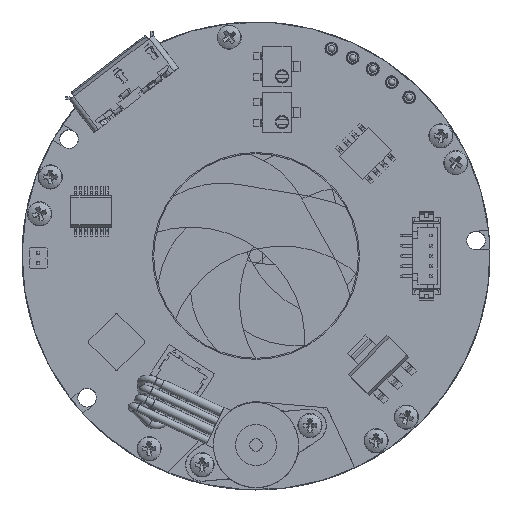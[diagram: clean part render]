
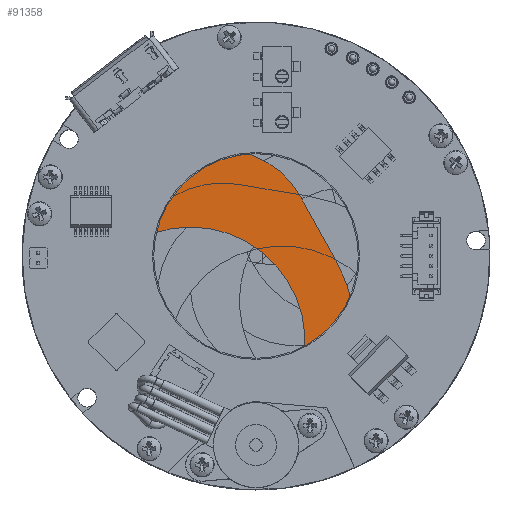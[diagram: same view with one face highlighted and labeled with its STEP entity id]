
A CAD part, top view. The second image highlights one B-rep face of the part: STEP entity #91358.
In plain terms, the highlighted planar face has unit normal (0, 0, 1).
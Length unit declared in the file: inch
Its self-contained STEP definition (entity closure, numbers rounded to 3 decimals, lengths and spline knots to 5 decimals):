
#3084 = VERTEX_POINT ( 'NONE', #35173 ) ;
#5208 = CARTESIAN_POINT ( 'NONE',  ( -0.39726, 0.45862, 0.021 ) ) ;
#5270 = CARTESIAN_POINT ( 'NONE',  ( -0.64244, 0.17932, 0.021 ) ) ;
#7716 = VERTEX_POINT ( 'NONE', #70409 ) ;
#11849 = CIRCLE ( 'NONE', #86978, 0.02563 ) ;
#14408 = AXIS2_PLACEMENT_3D ( 'NONE', #50558, #61227, #113917 ) ;
#16192 = CARTESIAN_POINT ( 'NONE',  ( 0.21438, -0.56163, 0.021 ) ) ;
#20615 = EDGE_LOOP ( 'NONE', ( #130230, #68758, #53434, #80947, #88622, #95908, #114437 ) ) ;
#21811 = FACE_OUTER_BOUND ( 'NONE', #20615, .T. ) ;
#24964 = EDGE_LOOP ( 'NONE', ( #129563 ) ) ;
#27486 = VERTEX_POINT ( 'NONE', #5208 ) ;
#28896 = DIRECTION ( 'NONE',  ( 0., 0., 1. ) ) ;
#31927 = CARTESIAN_POINT ( 'NONE',  ( 0.21469, 0.28393, 0.021 ) ) ;
#33366 = AXIS2_PLACEMENT_3D ( 'NONE', #96649, #119264, #34226 ) ;
#34226 = DIRECTION ( 'NONE',  ( 0.874, 0.486, 0. ) ) ;
#35173 = CARTESIAN_POINT ( 'NONE',  ( -0.62004, 0.19177, 0.021 ) ) ;
#36801 = DIRECTION ( 'NONE',  ( 0., 0., -1. ) ) ;
#37776 = DIRECTION ( 'NONE',  ( 0.486, -0.874, 0. ) ) ;
#39110 = CARTESIAN_POINT ( 'NONE',  ( 0.21469, 0.28393, 0.021 ) ) ;
#44191 = EDGE_LOOP ( 'NONE', ( #84934 ) ) ;
#44501 = CIRCLE ( 'NONE', #33366, 0.125 ) ;
#50161 = CIRCLE ( 'NONE', #88985, 0.125 ) ;
#50558 = CARTESIAN_POINT ( 'NONE',  ( -0.3145, -0.41066, 0.021 ) ) ;
#50977 = PLANE ( 'NONE',  #96071 ) ;
#51012 = DIRECTION ( 'NONE',  ( 0.874, 0.486, 0. ) ) ;
#51148 = CARTESIAN_POINT ( 'NONE',  ( -0.3145, -0.41066, 0.021 ) ) ;
#53241 = EDGE_CURVE ( 'NONE', #3084, #3084, #11849, .T. ) ;
#53434 = ORIENTED_EDGE ( 'NONE', *, *, #132713, .F. ) ;
#58093 = CARTESIAN_POINT ( 'NONE',  ( 0.45477, -0.63026, 0.021 ) ) ;
#59795 = DIRECTION ( 'NONE',  ( -0.874, -0.486, 0. ) ) ;
#61227 = DIRECTION ( 'NONE',  ( 0., 0., -1. ) ) ;
#61448 = CIRCLE ( 'NONE', #73843, 0.02563 ) ;
#62613 = EDGE_CURVE ( 'NONE', #121615, #123535, #128842, .T. ) ;
#63106 = FACE_BOUND ( 'NONE', #44191, .T. ) ;
#67679 = EDGE_CURVE ( 'NONE', #90917, #121615, #135860, .T. ) ;
#68064 = VECTOR ( 'NONE', #37776, 39.37008 ) ;
#68758 = ORIENTED_EDGE ( 'NONE', *, *, #67679, .F. ) ;
#70409 = CARTESIAN_POINT ( 'NONE',  ( 0.31217, -0.6084, 0.021 ) ) ;
#72488 = DIRECTION ( 'NONE',  ( 0., 0., 1. ) ) ;
#72983 = EDGE_CURVE ( 'NONE', #81658, #77634, #50161, .T. ) ;
#73843 = AXIS2_PLACEMENT_3D ( 'NONE', #123208, #102843, #59795 ) ;
#77634 = VERTEX_POINT ( 'NONE', #128384 ) ;
#78854 = AXIS2_PLACEMENT_3D ( 'NONE', #131639, #36801, #101125 ) ;
#80947 = ORIENTED_EDGE ( 'NONE', *, *, #110156, .F. ) ;
#81658 = VERTEX_POINT ( 'NONE', #111335 ) ;
#84336 = DIRECTION ( 'NONE',  ( 0., 0., -1. ) ) ;
#84512 = DIRECTION ( 'NONE',  ( -0.874, -0.486, 0. ) ) ;
#84934 = ORIENTED_EDGE ( 'NONE', *, *, #119563, .F. ) ;
#86978 = AXIS2_PLACEMENT_3D ( 'NONE', #5270, #28896, #51012 ) ;
#88622 = ORIENTED_EDGE ( 'NONE', *, *, #72983, .F. ) ;
#88985 = AXIS2_PLACEMENT_3D ( 'NONE', #137010, #117043, #105091 ) ;
#90774 = AXIS2_PLACEMENT_3D ( 'NONE', #51148, #72488, #84512 ) ;
#90917 = VERTEX_POINT ( 'NONE', #31927 ) ;
#91358 = ADVANCED_FACE ( 'NONE', ( #21811, #63106, #107799 ), #50977, .F. ) ;
#94928 = DIRECTION ( 'NONE',  ( -0.874, -0.486, 0. ) ) ;
#95908 = ORIENTED_EDGE ( 'NONE', *, *, #113583, .F. ) ;
#95948 = CIRCLE ( 'NONE', #90774, 0.55 ) ;
#96071 = AXIS2_PLACEMENT_3D ( 'NONE', #136098, #84336, #94928 ) ;
#96649 = CARTESIAN_POINT ( 'NONE',  ( 0.33457, -0.59595, 0.021 ) ) ;
#99605 = VECTOR ( 'NONE', #110753, 39.37008 ) ;
#101125 = DIRECTION ( 'NONE',  ( -0.874, -0.486, 0. ) ) ;
#102843 = DIRECTION ( 'NONE',  ( 0., 0., 1. ) ) ;
#104929 = CIRCLE ( 'NONE', #78854, 0.45 ) ;
#105091 = DIRECTION ( 'NONE',  ( 0.874, 0.486, 0. ) ) ;
#105538 = EDGE_CURVE ( 'NONE', #123535, #133973, #44501, .T. ) ;
#107799 = FACE_BOUND ( 'NONE', #24964, .T. ) ;
#110156 = EDGE_CURVE ( 'NONE', #77634, #27486, #127907, .T. ) ;
#110401 = CARTESIAN_POINT ( 'NONE',  ( 0.38474, -0.02198, 0.021 ) ) ;
#110753 = DIRECTION ( 'NONE',  ( 0.874, 0.486, 0. ) ) ;
#111335 = CARTESIAN_POINT ( 'NONE',  ( -0.58171, 0.07006, 0.021 ) ) ;
#113583 = EDGE_CURVE ( 'NONE', #133973, #81658, #95948, .T. ) ;
#113917 = DIRECTION ( 'NONE',  ( -0.874, -0.486, 0. ) ) ;
#114437 = ORIENTED_EDGE ( 'NONE', *, *, #105538, .F. ) ;
#117043 = DIRECTION ( 'NONE',  ( 0., 0., -1. ) ) ;
#119264 = DIRECTION ( 'NONE',  ( 0., 0., -1. ) ) ;
#119563 = EDGE_CURVE ( 'NONE', #7716, #7716, #61448, .T. ) ;
#121485 = CARTESIAN_POINT ( 'NONE',  ( -0.70317, 0.28857, 0.021 ) ) ;
#121615 = VERTEX_POINT ( 'NONE', #110401 ) ;
#123208 = CARTESIAN_POINT ( 'NONE',  ( 0.33457, -0.59595, 0.021 ) ) ;
#123535 = VERTEX_POINT ( 'NONE', #58093 ) ;
#127907 = LINE ( 'NONE', #121485, #99605 ) ;
#128384 = CARTESIAN_POINT ( 'NONE',  ( -0.70317, 0.28857, 0.021 ) ) ;
#128842 = CIRCLE ( 'NONE', #14408, 0.8 ) ;
#129563 = ORIENTED_EDGE ( 'NONE', *, *, #53241, .F. ) ;
#130230 = ORIENTED_EDGE ( 'NONE', *, *, #62613, .F. ) ;
#131639 = CARTESIAN_POINT ( 'NONE',  ( -0.17863, 0.0653, 0.021 ) ) ;
#132713 = EDGE_CURVE ( 'NONE', #27486, #90917, #104929, .T. ) ;
#133973 = VERTEX_POINT ( 'NONE', #16192 ) ;
#135860 = LINE ( 'NONE', #39110, #68064 ) ;
#136098 = CARTESIAN_POINT ( 'NONE',  ( -0.3145, -0.41066, 0.021 ) ) ;
#137010 = CARTESIAN_POINT ( 'NONE',  ( -0.64244, 0.17932, 0.021 ) ) ;
